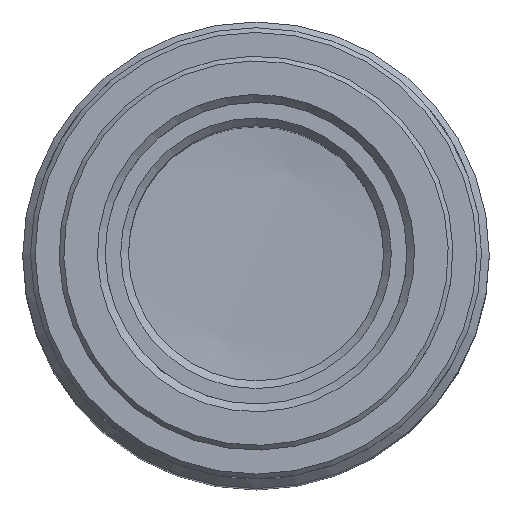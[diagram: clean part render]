
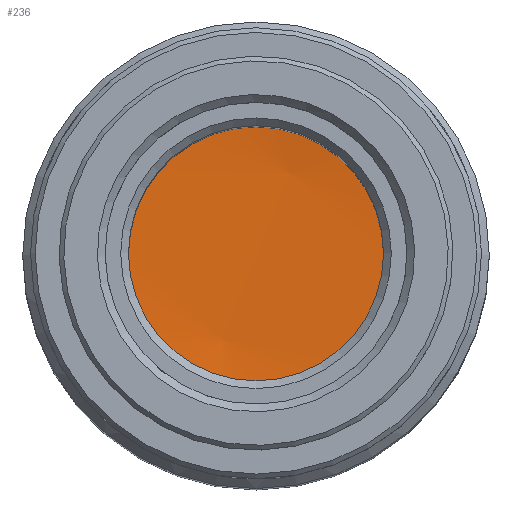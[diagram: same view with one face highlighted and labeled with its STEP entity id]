
A CAD part, top view. The second image highlights one B-rep face of the part: STEP entity #236.
In plain terms, the highlighted spherical face has radius 95.7 mm.
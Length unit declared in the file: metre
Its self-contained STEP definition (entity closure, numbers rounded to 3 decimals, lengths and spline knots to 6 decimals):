
#236=ADVANCED_FACE('4:15656',(#547),#548,.F.);
#547=FACE_OUTER_BOUND('',#973,.T.);
#548=SPHERICAL_SURFACE('',#974,0.0957);
#973=EDGE_LOOP('',(#1567));
#974=AXIS2_PLACEMENT_3D('',#1568,#1569,#1570);
#1567=ORIENTED_EDGE('',*,*,#2228,.F.);
#1568=CARTESIAN_POINT('',(0.004447,0.005065,0.059454));
#1569=DIRECTION('',(0.926,-0.377,0.));
#1570=DIRECTION('',(0.377,0.926,0.));
#2228=EDGE_CURVE('4:15956',#2614,#2614,#2615,.T.);
#2614=VERTEX_POINT('',#3247);
#2615=CIRCLE('',#3248,0.011531);
#3247=CARTESIAN_POINT('',(-0.007084,0.005065,-0.035549));
#3248=AXIS2_PLACEMENT_3D('',#3931,#3932,#3933);
#3931=CARTESIAN_POINT('',(0.004447,0.005065,-0.035549));
#3932=DIRECTION('',(0.,0.0,-1.0));
#3933=DIRECTION('',(-1.0,0.0,0.));
